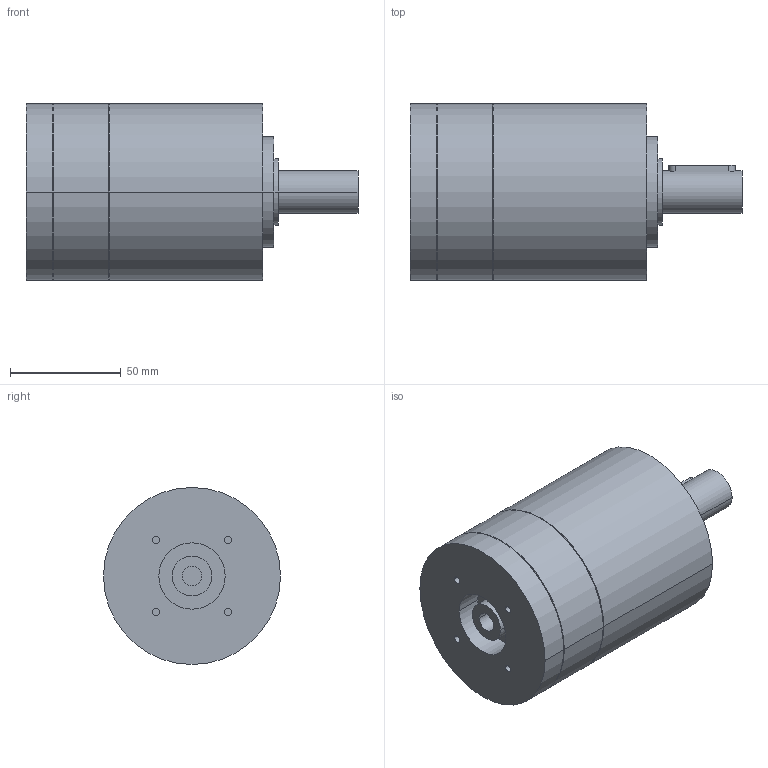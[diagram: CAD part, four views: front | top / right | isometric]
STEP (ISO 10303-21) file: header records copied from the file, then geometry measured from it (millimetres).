
FILE_DESCRIPTION(('CoCreate Modeling STEP Export'),'2;1');
FILE_NAME('GPR100_ig-3-4-5-6_19_B14_9_P24.stp','2014-08-26T10:53:17',(''),(''),'CoCreate Modeling STEP processor for AP214 (Solid Model)','CoCreate Modeling 16.00C 25-Feb-2009 (C) Parametric Technology GmbH','');
FILE_SCHEMA(('AUTOMOTIVE_DESIGN { 1 0 10303 214 1 1 1 1 }'));
Length unit declared in the file: millimetre
Products named in the file (2): GPR100_ig-3-4-5-6_19_B14_9_P24
Assembly tree (1 placements, depth 2):
  GPR100_ig-3-4-5-6_19_B14_9_P24
    GPR100_ig-3-4-5-6_19_B14_9_P24
Bounding box: 150 x 80 x 80 mm (x, y, z)
Volume: 549160.7 mm3; surface area: 45012.9 mm2
Topology: 1 solids, 1 shells, 65 faces, 161 edges, 113 vertices
Faces by surface type: cylinder 38, plane 21, cone 6
Entity records: 1651 total; most frequent: ORIENTED_EDGE 318, CARTESIAN_POINT 309, DIRECTION 214, EDGE_CURVE 159, VERTEX_POINT 113, AXIS2_PLACEMENT_3D 82, EDGE_LOOP 82, FACE_OUTER_BOUND 65
